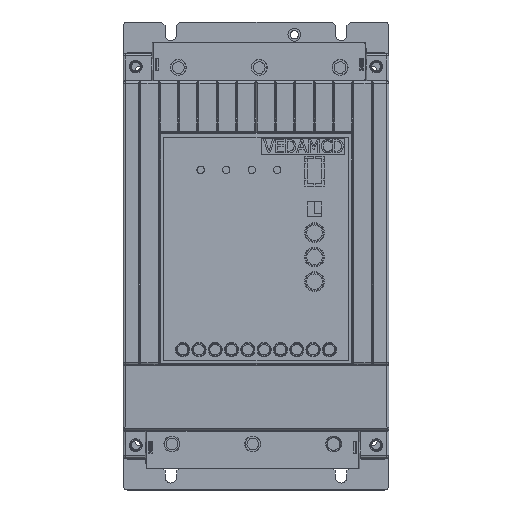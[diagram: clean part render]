
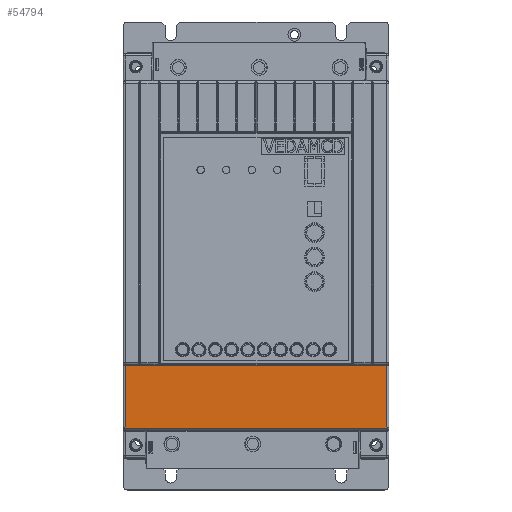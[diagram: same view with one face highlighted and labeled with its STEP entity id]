
A CAD part, top view. The second image highlights one B-rep face of the part: STEP entity #54794.
In plain terms, the highlighted planar face has unit normal (0, -0.033, 1).
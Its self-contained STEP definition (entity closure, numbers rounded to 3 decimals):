
#2513=FACE_OUTER_BOUND('',#5320,.T.);
#5320=EDGE_LOOP('',(#37076,#37077,#37078,#37079));
#9659=LINE('',#80209,#16238);
#9660=LINE('',#80211,#16239);
#9661=LINE('',#80213,#16240);
#9662=LINE('',#80214,#16241);
#16238=VECTOR('',#63765,10.);
#16239=VECTOR('',#63766,1.);
#16240=VECTOR('',#63767,1.);
#16241=VECTOR('',#63768,1.);
#22724=VERTEX_POINT('',#80207);
#22725=VERTEX_POINT('',#80208);
#22726=VERTEX_POINT('',#80210);
#22727=VERTEX_POINT('',#80212);
#28249=EDGE_CURVE('',#22724,#22725,#9659,.T.);
#28250=EDGE_CURVE('',#22725,#22726,#9660,.T.);
#28251=EDGE_CURVE('',#22726,#22727,#9661,.T.);
#28252=EDGE_CURVE('',#22727,#22724,#9662,.T.);
#37076=ORIENTED_EDGE('',*,*,#28249,.T.);
#37077=ORIENTED_EDGE('',*,*,#28250,.T.);
#37078=ORIENTED_EDGE('',*,*,#28251,.T.);
#37079=ORIENTED_EDGE('',*,*,#28252,.T.);
#49826=PLANE('',#57672);
#54794=ADVANCED_FACE('',(#2513),#49826,.F.);
#57672=AXIS2_PLACEMENT_3D('',#80206,#63763,#63764);
#63763=DIRECTION('center_axis',(0.,0.033,
-0.999));
#63764=DIRECTION('ref_axis',(0.,0.999,0.033));
#63765=DIRECTION('',(1.,0.,0.));
#63766=DIRECTION('',(0.,0.999,0.033));
#63767=DIRECTION('',(-1.,0.,0.));
#63768=DIRECTION('',(0.,-0.999,-0.033));
#80206=CARTESIAN_POINT('Origin',(-350.,-101.3,54.8));
#80207=CARTESIAN_POINT('',(-411.5,-100.339,54.831));
#80208=CARTESIAN_POINT('',(-288.5,-100.339,54.831));
#80209=CARTESIAN_POINT('',(-411.5,-100.339,54.831));
#80210=CARTESIAN_POINT('',(-288.5,-71.034,55.784));
#80211=CARTESIAN_POINT('',(-288.5,-70.652,55.797));
#80212=CARTESIAN_POINT('',(-411.5,-71.034,55.784));
#80213=CARTESIAN_POINT('',(-350.,-71.034,55.784));
#80214=CARTESIAN_POINT('',(-411.5,-100.3,54.833));
